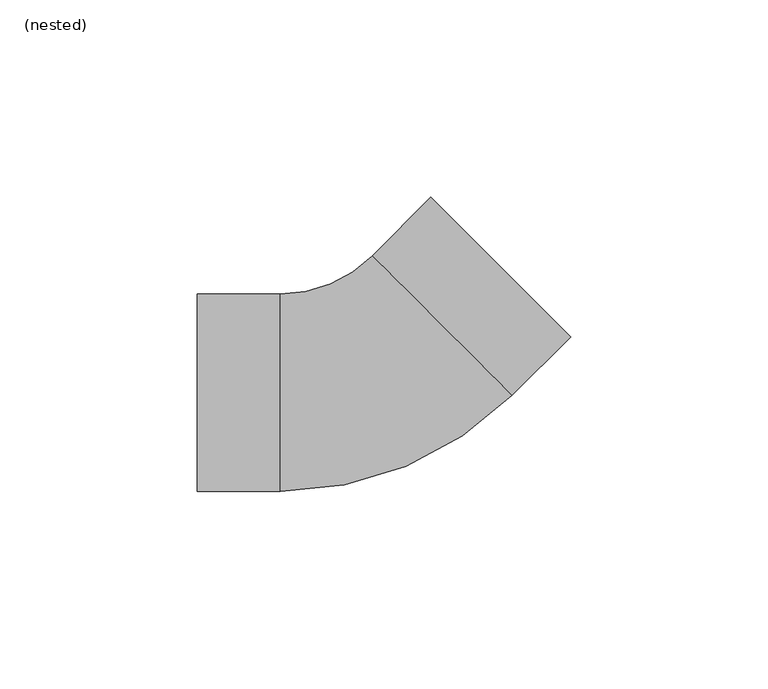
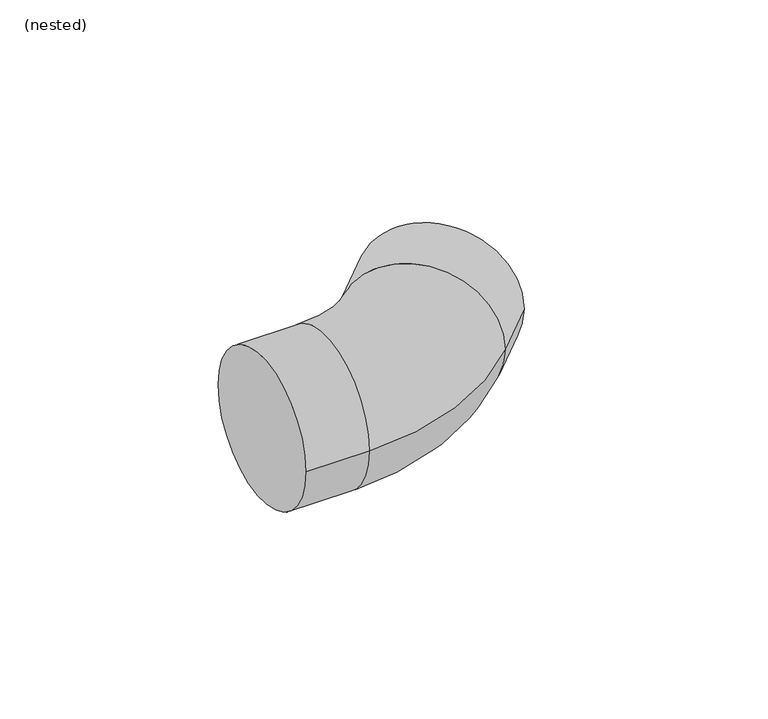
"""IFC4 building model written with IfcOpenShell, lengths in millimetres: pipe fitting geometry, NLRS_52_PIF_UN_PE bocht_SH_geb : (nested)."""

from ifc_helpers import new_model, si_unit, point, frame, origin, place, context, project, spatial, circle_curve, ellipse_curve, trimmed, source, transform, mapped, element, save
from ifc_brep_helpers import plane_surface, cylinder_surface, revolved_surface, advanced_brep


def nested_b8c35c44(model_context):
    return source(origin(), model_context, "Body", "AdvancedBrep", [
        advanced_brep(
        [(-0.7071068, 34.6482323, 0.0), (-24.0, 25.0, 0.0), (-24.0, -25.0, 0.0), (34.6482323, -0.7071068, 0.0), (-45.0, -25.0, 0.0), (-45.0, 25.0, 0.0), (49.4974747, 14.1421356, 0.0), (14.1421356, 49.4974747, 0.0)],
        [
            (0, 1, circle_curve(frame((-24.0, 57.9411255, 0.0), z_axis=(0.0, 0.0, -1.0), x_axis=(0.0, -1.0, 0.0)), 32.9411255)),
            (1, 2, circle_curve(frame((-24.0, 0.0, 0.0), z_axis=(1.0, 0.0, 0.0), x_axis=(0.0, 1.0, 0.0)), 25.0)),
            (2, 3, circle_curve(frame((-24.0, 57.9411255, 0.0), z_axis=(0.0, 0.0, 1.0), x_axis=(0.0, -1.0, 0.0)), 82.9411255)),
            (3, 0, circle_curve(frame((16.9705627, 16.9705627, 0.0), z_axis=(-0.7071067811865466, -0.7071067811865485, 0.0), x_axis=(-0.7071067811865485, 0.7071067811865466, 0.0)), 25.0)),
            (2, 1, circle_curve(frame((-24.0, 0.0, 0.0), z_axis=(1.0, 0.0, 0.0), x_axis=(0.0, 1.0, 0.0)), 25.0)),
            (0, 3, circle_curve(frame((16.9705627, 16.9705627, 0.0), z_axis=(-0.7071067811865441, -0.7071067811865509, 0.0), x_axis=(-0.7071067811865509, 0.7071067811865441, 0.0)), 25.0)),
            (4, 5, circle_curve(frame((-45.0, 0.0, 0.0), z_axis=(-1.0, 0.0, 0.0), x_axis=(0.0, 1.0, 0.0)), 25.0)),
            (5, 4, circle_curve(frame((-45.0, 0.0, 0.0), z_axis=(-1.0, 0.0, 0.0), x_axis=(0.0, 1.0, 0.0)), 25.0)),
            (4, 2),
            (1, 5),
            (6, 7, circle_curve(frame((31.8198052, 31.8198052, 0.0), z_axis=(0.7071067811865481, 0.7071067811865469, 0.0), x_axis=(-0.7071067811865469, 0.7071067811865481, 0.0)), 25.0)),
            (7, 6, circle_curve(frame((31.8198052, 31.8198052, 0.0), z_axis=(0.7071067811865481, 0.7071067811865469, 0.0), x_axis=(-0.7071067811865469, 0.7071067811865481, 0.0)), 25.0)),
            (3, 6),
            (7, 0),
        ],
        [
            revolved_surface(trimmed(ellipse_curve(frame((-24.0, 0.0, 0.0), z_axis=(-1.0, 0.0, 0.0), x_axis=(0.0, 1.0, 0.0)), 25.0, 25.0), [point((-24.0, -25.0, 0.0))], [point((-24.0, 25.0, 0.0))], True, "CARTESIAN"), (-24.0, 57.9411255, 0.0), (0.0, 0.0, 1.0)),
            revolved_surface(trimmed(ellipse_curve(frame((-24.0, 0.0, 0.0), z_axis=(-1.0, 0.0, 0.0), x_axis=(0.0, 1.0, 0.0)), 25.0, 25.0), [point((-24.0, 25.0, 0.0))], [point((-24.0, -25.0, 0.0))], True, "CARTESIAN"), (-24.0, 57.9411255, 0.0), (0.0, 0.0, 1.0)),
            plane_surface(frame((-45.0, 0.0, 0.0), z_axis=(-1.0, 0.0, 0.0), x_axis=(0.0, 0.0, 1.0))),
            cylinder_surface(frame((-45.0, 0.0, 0.0), z_axis=(-1.0, 0.0, 0.0), x_axis=(0.0, 1.0, 0.0)), 25.0),
            plane_surface(frame((31.8198052, 31.8198052, 0.0), z_axis=(0.7071067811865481, 0.7071067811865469, 0.0), x_axis=(0.0, 0.0, 1.0))),
            cylinder_surface(frame((16.9705627, 16.9705627, 0.0), z_axis=(-0.7071067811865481, -0.7071067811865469, 0.0), x_axis=(-0.7071067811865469, 0.7071067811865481, 0.0)), 25.0),
        ],
        [
            (0, [[1, 2, 3, 4]]),
            (1, [[-3, 5, -1, 6]]),
            (2, [[7, 8]]),
            (3, [[-7, 9, -2, 10]]),
            (3, [[-8, -10, -5, -9]]),
            (4, [[11, 12]]),
            (5, [[-4, 13, -12, 14]]),
            (5, [[-6, -14, -11, -13]]),
        ],
    ),
    ])


if __name__ == "__main__":
    model = new_model("IFC4")
    model_context = context("Model", 3, world=origin())
    ifc_project = project(units=[si_unit("LENGTHUNIT", "METRE", prefix="MILLI")], contexts=[model_context])
    site = spatial("IfcSite", under=ifc_project)
    building = spatial("IfcBuilding", under=site)
    placement = place(None, origin())
    nested_shape = nested_b8c35c44(model_context)
    element("IfcPipeFitting", 1, ObjectType="NLRS_52_PIF_UN_PE bocht_SH_geb : (nested)", at=placement, inside=building, context=model_context, shape_type="MappedRepresentation", body=[
        mapped(nested_shape, transform((0.0, 0.0, 0.0), x_axis=(1.0, 0.0, 0.0), y_axis=(0.0, 1.0, 0.0), z_axis=(0.0, 0.0, 1.0))),
    ])
    save(model, "model.ifc")
